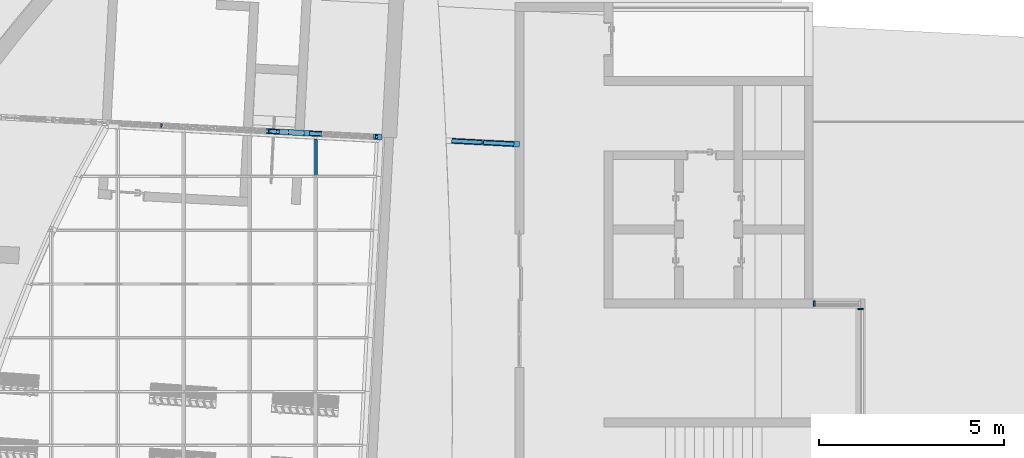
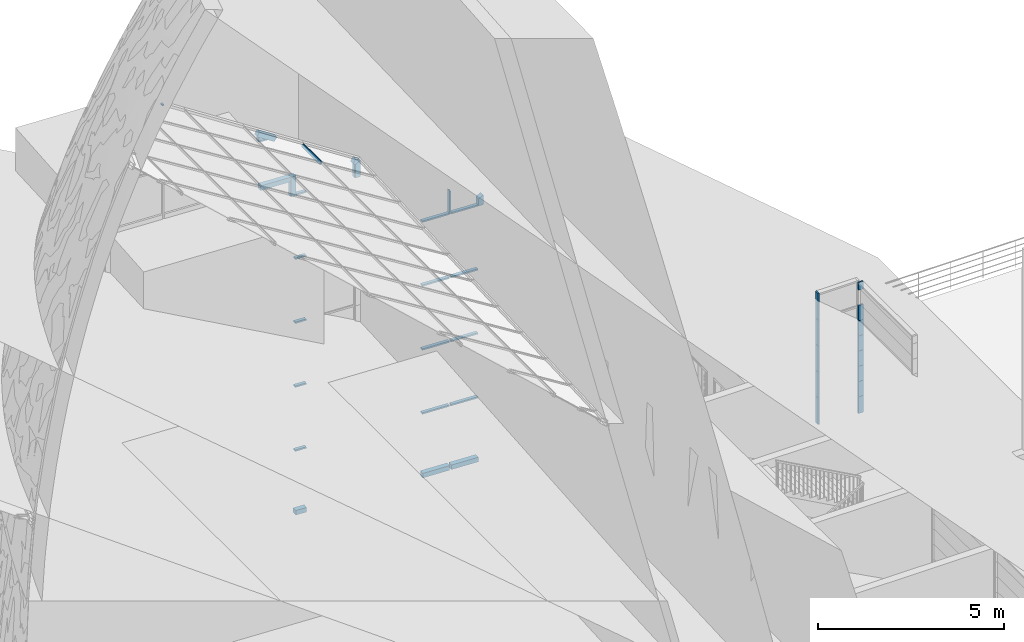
# One storey, part 32 of 82: 41 members, 4 elements without a shape of their own.
"""IFC2X3 building model written with IfcOpenShell, lengths in millimetres."""

from ifc_helpers import new_model, entity, si_unit, converted_unit, derived_unit, direction, frame, frame_2d, origin, origin_2d_with_axis, place, context, subcontext, project, spatial, polyline, rectangle, extrude, clip, halfspace, bounded_halfspace, source, transform, mapped, material, type_object, type_shapes, element, aggregate, save


model = new_model("IFC2X3")

# Units and contexts
model_context = context("Model", 3, precision=0.01, world=origin(), true_north=direction((6.12303176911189e-17, 1.0)))
body_context = subcontext(model_context, "Body", "Model", "MODEL_VIEW")
ifc_project = project(units=[si_unit("LENGTHUNIT", "METRE", prefix="MILLI"), si_unit("AREAUNIT", "SQUARE_METRE"), si_unit("VOLUMEUNIT", "CUBIC_METRE"), converted_unit("PLANEANGLEUNIT", "DEGREE", entity("IfcRatioMeasure", 0.0174532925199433), si_unit("PLANEANGLEUNIT", "RADIAN"), dimensions=[0, 0, 0, 0, 0, 0, 0]), si_unit("MASSUNIT", "GRAM", prefix="KILO"), derived_unit("MASSDENSITYUNIT", [(si_unit("MASSUNIT", "GRAM", prefix="KILO"), 1), (si_unit("LENGTHUNIT", "METRE"), -3)]), si_unit("TIMEUNIT", "SECOND"), si_unit("FREQUENCYUNIT", "HERTZ"), si_unit("THERMODYNAMICTEMPERATUREUNIT", "DEGREE_CELSIUS"), derived_unit("THERMALTRANSMITTANCEUNIT", [(si_unit("MASSUNIT", "GRAM", prefix="KILO"), 1), (si_unit("THERMODYNAMICTEMPERATUREUNIT", "KELVIN"), -1), (si_unit("TIMEUNIT", "SECOND"), -3)]), derived_unit("VOLUMETRICFLOWRATEUNIT", [(si_unit("LENGTHUNIT", "METRE"), 3), (si_unit("TIMEUNIT", "SECOND"), -1)]), si_unit("ELECTRICCURRENTUNIT", "AMPERE"), si_unit("ELECTRICVOLTAGEUNIT", "VOLT"), si_unit("POWERUNIT", "WATT"), si_unit("FORCEUNIT", "NEWTON", prefix="KILO"), si_unit("ILLUMINANCEUNIT", "LUX"), si_unit("LUMINOUSFLUXUNIT", "LUMEN"), si_unit("LUMINOUSINTENSITYUNIT", "CANDELA"), derived_unit("USERDEFINED", [(si_unit("MASSUNIT", "GRAM", prefix="KILO"), -1), (si_unit("LENGTHUNIT", "METRE"), -2), (si_unit("TIMEUNIT", "SECOND"), 3), (si_unit("LUMINOUSFLUXUNIT", "LUMEN"), 1)]), derived_unit("LINEARVELOCITYUNIT", [(si_unit("LENGTHUNIT", "METRE"), 1), (si_unit("TIMEUNIT", "SECOND"), -1)]), si_unit("PRESSUREUNIT", "PASCAL"), derived_unit("USERDEFINED", [(si_unit("LENGTHUNIT", "METRE"), -2), (si_unit("MASSUNIT", "GRAM", prefix="KILO"), 1), (si_unit("TIMEUNIT", "SECOND"), -2)])], contexts=[model_context])

# Site, building, storey
site_placement = place(None, origin())
site = spatial("IfcSite", under=ifc_project, at=site_placement, Name="表面", CompositionType="ELEMENT")
building_placement = place(site_placement, origin())
building = spatial("IfcBuilding", under=site, at=building_placement, CompositionType="ELEMENT")
storey_placement = place(building_placement, origin())
storey = spatial("IfcBuildingStorey", under=building, at=storey_placement, Name="1F", CompositionType="ELEMENT", Elevation=0.0)

# Curtain wall, members
curtain_wall_type_1 = type_object("IfcCurtainWallType", Name="幕墙系统:1450 x 2100mm", PredefinedType="NOTDEFINED")
curtain_wall_1_placement = place(storey_placement, origin())
curtain_wall_1 = element("IfcCurtainWall", 1, at=curtain_wall_1_placement, inside=storey, type_object=curtain_wall_type_1, Name="幕墙系统:1450 x 2100mm", ObjectType="幕墙系统:1450 x 2100mm")
ifc_material_1 = material(Name="木质 - 木材")
member_type_1 = type_object("IfcMemberType", Name="200 x 150mm", PredefinedType="MEMBER")
shared_shape_1 = source(origin(), body_context, "Body", "SweptSolid", [
    extrude(rectangle(XDim=150.0, YDim=150.0, at=frame_2d((7.105427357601e-15, 0.0), x_axis=(1.0, 0.0))), frame((-75.0, 0.0, -813.114110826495), z_axis=(0.0, 0.0, 1.0), x_axis=(0.0, -1.0, 0.0)), (0.0, 0.0, 1.0), 813.114110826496),
])
type_shapes(member_type_1, [shared_shape_1])
member_1_placement = place(storey_placement, frame((-14580.0443428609, 1983.52469271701, 0.0), z_axis=(0.998629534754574, -0.0523359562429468, 0.0), x_axis=(0.0, 0.0, -1.0)))
member_1 = element("IfcMember", 2, at=member_1_placement, type_object=member_type_1, material=ifc_material_1, Name="矩形竖梃:200 x 150mm", ObjectType="200 x 150mm", context=body_context, shape_type="MappedRepresentation", body=[
    mapped(shared_shape_1, transform((0.0, 0.0, 0.0), scale=1.0)),
])
member_2_placement = place(storey_placement, frame((-15441.9755857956, 2028.6965950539, 0.0), z_axis=(0.998629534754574, -0.0523359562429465, 0.0), x_axis=(0.0, 0.0, -1.0)))
member_2 = element("IfcMember", 3, at=member_2_placement, type_object=member_type_1, material=ifc_material_1, Name="矩形竖梃:200 x 150mm", ObjectType="200 x 150mm", context=body_context, shape_type="MappedRepresentation", body=[
    mapped(shared_shape_1, transform((0.0, 0.0, 0.0), scale=1.0)),
])
member_type_2 = type_object("IfcMemberType", Name="200 x 150mm", PredefinedType="MEMBER")
shared_shape_2 = source(origin(), body_context, "Body", "Clipping", [
    clip(extrude(rectangle(XDim=150.0, YDim=150.0, at=origin_2d_with_axis()), frame((-75.0, 0.0, -313.21784202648), z_axis=(0.0, 0.0, 1.0), x_axis=(0.0, -1.0, 0.0)), (0.0, 0.0, 1.0), 313.21784202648), halfspace(frame((0.0, -304.8, 0.0), z_axis=(-0.485079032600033, 0.0, 0.874470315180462), x_axis=(-0.874470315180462, 0.0, -0.485079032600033)), False)),
])
type_shapes(member_type_2, [shared_shape_2])
placement_1 = place(building_placement, frame((0.0, 0.0, 6000.0)))
member_3_placement = place(placement_1, frame((-14430.2499126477, 1975.67429928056, 2713.21784202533), z_axis=(0.0, 0.0, 1.0), x_axis=(0.998629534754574, -0.0523359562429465, 0.0)))
member_3 = element("IfcMember", 4, at=member_3_placement, type_object=member_type_2, material=ifc_material_1, Name="矩形竖梃:200 x 150mm", ObjectType="200 x 150mm", context=body_context, shape_type="MappedRepresentation", body=[
    mapped(shared_shape_2, transform((0.0, 0.0, 0.0), scale=1.0)),
])
ifc_material_2 = material(Name="金属 - 铝")
member_type_3 = type_object("IfcMemberType", Name="50 x 100mm", PredefinedType="MEMBER")
shared_shape_3 = source(origin(), body_context, "Body", "SweptSolid", [
    extrude(rectangle(XDim=100.0, YDim=50.0, at=origin_2d_with_axis()), frame((0.0, 0.0, -813.114110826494), z_axis=(0.0, 0.0, 1.0), x_axis=(0.0, -1.0, 0.0)), (0.0, 0.0, 1.0), 813.114110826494),
])
type_shapes(member_type_3, [shared_shape_3])
member_4_placement = place(storey_placement, frame((-16253.9753519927, 2071.25169957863, 2100.0), z_axis=(-0.998629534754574, 0.0523359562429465, 0.0), x_axis=(0.0, 0.0, 1.0)))
member_4 = element("IfcMember", 5, at=member_4_placement, type_object=member_type_3, material=ifc_material_2, Name="矩形竖梃:50 x 100mm", ObjectType="50 x 100mm", context=body_context, shape_type="MappedRepresentation", body=[
    mapped(shared_shape_3, transform((0.0, 0.0, 0.0), scale=1.0)),
])
member_5_placement = place(storey_placement, frame((-15392.0441090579, 2026.07979724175, 2100.0), z_axis=(-0.998629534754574, 0.0523359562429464, 0.0), x_axis=(0.0, 0.0, 1.0)))
member_5 = element("IfcMember", 6, at=member_5_placement, type_object=member_type_3, material=ifc_material_2, Name="矩形竖梃:50 x 100mm", ObjectType="50 x 100mm", context=body_context, shape_type="MappedRepresentation", body=[
    mapped(shared_shape_3, transform((0.0, 0.0, 0.0), scale=1.0)),
])
placement_2 = place(building_placement, frame((0.0, 0.0, 3000.0)))
member_6_placement = place(placement_2, frame((-16253.9753519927, 2071.25169957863, 1200.0), z_axis=(-0.998629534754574, 0.0523359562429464, 0.0), x_axis=(0.0, 0.0, 1.0)))
member_6 = element("IfcMember", 7, at=member_6_placement, type_object=member_type_3, material=ifc_material_2, Name="矩形竖梃:50 x 100mm", ObjectType="50 x 100mm", context=body_context, shape_type="MappedRepresentation", body=[
    mapped(shared_shape_3, transform((0.0, 0.0, 0.0), scale=1.0)),
])
member_7_placement = place(placement_2, frame((-15392.0441090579, 2026.07979724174, 1200.0), z_axis=(-0.998629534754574, 0.0523359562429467, 0.0), x_axis=(0.0, 0.0, 1.0)))
member_7 = element("IfcMember", 8, at=member_7_placement, type_object=member_type_3, material=ifc_material_2, Name="矩形竖梃:50 x 100mm", ObjectType="50 x 100mm", context=body_context, shape_type="MappedRepresentation", body=[
    mapped(shared_shape_3, transform((0.0, 0.0, 0.0), scale=1.0)),
])
member_8_placement = place(placement_1, frame((-16253.9753519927, 2071.25169957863, 300.0), z_axis=(-0.998629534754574, 0.0523359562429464, 0.0), x_axis=(0.0, 0.0, 1.0)))
member_8 = element("IfcMember", 9, at=member_8_placement, type_object=member_type_3, material=ifc_material_2, Name="矩形竖梃:50 x 100mm", ObjectType="50 x 100mm", context=body_context, shape_type="MappedRepresentation", body=[
    mapped(shared_shape_3, transform((0.0, 0.0, 0.0), scale=1.0)),
])
member_9_placement = place(placement_1, frame((-15392.0441090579, 2026.07979724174, 300.0), z_axis=(-0.998629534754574, 0.0523359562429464, 0.0), x_axis=(0.0, 0.0, 1.0)))
member_9 = element("IfcMember", 10, at=member_9_placement, type_object=member_type_3, material=ifc_material_2, Name="矩形竖梃:50 x 100mm", ObjectType="50 x 100mm", context=body_context, shape_type="MappedRepresentation", body=[
    mapped(shared_shape_3, transform((0.0, 0.0, 0.0), scale=1.0)),
])
member_10_placement = place(placement_1, frame((-16253.9753519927, 2071.25169957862, 2400.0), z_axis=(-0.998629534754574, 0.0523359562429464, 0.0), x_axis=(0.0, 0.0, 1.0)))
member_10 = element("IfcMember", 11, at=member_10_placement, type_object=member_type_3, material=ifc_material_2, Name="矩形竖梃:50 x 100mm", ObjectType="50 x 100mm", context=body_context, shape_type="MappedRepresentation", body=[
    mapped(shared_shape_3, transform((0.0, 0.0, 0.0), scale=1.0)),
])
member_11_placement = place(placement_1, frame((-15392.0441090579, 2026.07979724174, 2400.0), z_axis=(-0.998629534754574, 0.0523359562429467, 0.0), x_axis=(0.0, 0.0, 1.0)))
member_11 = element("IfcMember", 12, at=member_11_placement, type_object=member_type_3, material=ifc_material_2, Name="矩形竖梃:50 x 100mm", ObjectType="50 x 100mm", context=body_context, shape_type="MappedRepresentation", body=[
    mapped(shared_shape_3, transform((0.0, 0.0, 0.0), scale=1.0)),
])
member_type_4 = type_object("IfcMemberType", Name="50 x 100mm", PredefinedType="MEMBER")
shared_shape_4 = source(origin(), body_context, "Body", "Clipping", [
    clip(extrude(rectangle(XDim=100.0, YDim=50.0, at=origin_2d_with_axis()), frame((0.0, 0.0, -929.813882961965), z_axis=(0.0, 0.0, 1.0), x_axis=(0.0, -1.0, 0.0)), (0.0, 0.0, 1.0), 768.605484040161), halfspace(frame((-79.4094996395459, 75.0, -127.256164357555), z_axis=(0.529396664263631, 0.0, 0.848374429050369), x_axis=(0.848374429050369, 0.0, -0.529396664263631)), False)),
])
type_shapes(member_type_4, [shared_shape_4])
member_12_placement = place(placement_1, frame((-15417.0098474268, 2027.38819614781, 3329.81388296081), z_axis=(0.0, 0.0, 1.0), x_axis=(0.998629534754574, -0.0523359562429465, 0.0)))
member_12 = element("IfcMember", 13, at=member_12_placement, type_object=member_type_4, material=ifc_material_2, Name="矩形竖梃:50 x 100mm", ObjectType="50 x 100mm", context=body_context, shape_type="MappedRepresentation", body=[
    mapped(shared_shape_4, transform((0.0, 0.0, 0.0), scale=1.0)),
])
aggregate(curtain_wall_1, [member_1, member_3, member_2, member_4, member_5, member_6, member_7, member_8, member_9, member_10, member_11, member_12])

curtain_wall_type_2 = type_object("IfcCurtainWallType", Name="幕墙:幕墙 1", PredefinedType="NOTDEFINED")
curtain_wall_2_placement = place(storey_placement, origin())
curtain_wall_2 = element("IfcCurtainWall", 14, at=curtain_wall_2_placement, inside=storey, type_object=curtain_wall_type_2, Name="幕墙:幕墙 1", ObjectType="幕墙:幕墙 1")
member_type_5 = type_object("IfcMemberType", Name="50 x 150mm", PredefinedType="MEMBER")
shared_shape_5 = source(origin(), body_context, "Body", "SweptSolid", [
    extrude(rectangle(XDim=150.0, YDim=50.0, at=origin_2d_with_axis()), frame((-25.0, 0.0, -550.0), z_axis=(0.0, 0.0, 1.0), x_axis=(0.0, -1.0, 0.0)), (0.0, 0.0, 1.0), 550.0),
])
type_shapes(member_type_5, [shared_shape_5])
member_13_placement = place(storey_placement, frame((-5230.24991264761, -2436.868426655, 1550.0), z_axis=(0.0, 0.0, 1.0), x_axis=(0.0, 1.0, 0.0)))
member_13 = element("IfcMember", 15, at=member_13_placement, type_object=member_type_5, material=ifc_material_2, Name="矩形竖梃:50 x 150mm", ObjectType="50 x 150mm", context=body_context, shape_type="MappedRepresentation", body=[
    mapped(shared_shape_5, transform((0.0, 0.0, 0.0), scale=1.0)),
])
member_type_6 = type_object("IfcMemberType", Name="50 x 150mm", PredefinedType="MEMBER")
shared_shape_6 = source(origin(), body_context, "Body", "SweptSolid", [
    extrude(rectangle(XDim=150.0, YDim=50.0, at=origin_2d_with_axis()), frame((-25.0, 0.0, -500.0), z_axis=(0.0, 0.0, 1.0), x_axis=(0.0, -1.0, 0.0)), (0.0, 0.0, 1.0), 500.0),
])
type_shapes(member_type_6, [shared_shape_6])
member_14_placement = place(storey_placement, frame((-5230.24991264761, -2436.868426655, 2050.0), z_axis=(0.0, 0.0, 1.0), x_axis=(0.0, 1.0, 0.0)))
member_14 = element("IfcMember", 16, at=member_14_placement, type_object=member_type_6, material=ifc_material_2, Name="矩形竖梃:50 x 150mm", ObjectType="50 x 150mm", context=body_context, shape_type="MappedRepresentation", body=[
    mapped(shared_shape_6, transform((0.0, 0.0, 0.0), scale=1.0)),
])
member_15_placement = place(storey_placement, frame((-5230.24991264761, -2436.868426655, 2550.0), z_axis=(0.0, 0.0, 1.0), x_axis=(0.0, 1.0, 0.0)))
member_15 = element("IfcMember", 17, at=member_15_placement, type_object=member_type_6, material=ifc_material_2, Name="矩形竖梃:50 x 150mm", ObjectType="50 x 150mm", context=body_context, shape_type="MappedRepresentation", body=[
    mapped(shared_shape_6, transform((0.0, 0.0, 0.0), scale=1.0)),
])
member_16_placement = place(storey_placement, frame((-5230.24991264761, -2436.868426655, 3050.0), z_axis=(0.0, 0.0, 1.0), x_axis=(0.0, 1.0, 0.0)))
member_16 = element("IfcMember", 18, at=member_16_placement, type_object=member_type_6, material=ifc_material_2, Name="矩形竖梃:50 x 150mm", ObjectType="50 x 150mm", context=body_context, shape_type="MappedRepresentation", body=[
    mapped(shared_shape_6, transform((0.0, 0.0, 0.0), scale=1.0)),
])
member_17_placement = place(storey_placement, frame((-5230.24991264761, -2436.868426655, 3550.0), z_axis=(0.0, 0.0, 1.0), x_axis=(0.0, 1.0, 0.0)))
member_17 = element("IfcMember", 19, at=member_17_placement, type_object=member_type_6, material=ifc_material_2, Name="矩形竖梃:50 x 150mm", ObjectType="50 x 150mm", context=body_context, shape_type="MappedRepresentation", body=[
    mapped(shared_shape_6, transform((0.0, 0.0, 0.0), scale=1.0)),
])
member_18_placement = place(storey_placement, frame((-5230.24991264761, -2436.868426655, 4050.0), z_axis=(0.0, 0.0, 1.0), x_axis=(0.0, 1.0, 0.0)))
member_18 = element("IfcMember", 20, at=member_18_placement, type_object=member_type_6, material=ifc_material_2, Name="矩形竖梃:50 x 150mm", ObjectType="50 x 150mm", context=body_context, shape_type="MappedRepresentation", body=[
    mapped(shared_shape_6, transform((0.0, 0.0, 0.0), scale=1.0)),
])
member_19_placement = place(storey_placement, frame((-5230.24991264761, -2436.868426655, 4550.0), z_axis=(0.0, 0.0, 1.0), x_axis=(0.0, 1.0, 0.0)))
member_19 = element("IfcMember", 21, at=member_19_placement, type_object=member_type_6, material=ifc_material_2, Name="矩形竖梃:50 x 150mm", ObjectType="50 x 150mm", context=body_context, shape_type="MappedRepresentation", body=[
    mapped(shared_shape_6, transform((0.0, 0.0, 0.0), scale=1.0)),
])
member_type_7 = type_object("IfcMemberType", Name="50 x 150mm", PredefinedType="MEMBER")
shared_shape_7 = source(origin(), body_context, "Body", "SweptSolid", [
    extrude(rectangle(XDim=150.0, YDim=50.0, at=origin_2d_with_axis()), frame((-25.0, 0.0, -250.0), z_axis=(0.0, 0.0, 1.0), x_axis=(0.0, -1.0, 0.0)), (0.0, 0.0, 1.0), 250.000000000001),
])
type_shapes(member_type_7, [shared_shape_7])
member_20_placement = place(storey_placement, frame((-5230.24991264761, -2436.868426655, 5300.0), z_axis=(0.0, 0.0, 1.0), x_axis=(0.0, 1.0, 0.0)))
member_20 = element("IfcMember", 22, at=member_20_placement, type_object=member_type_7, material=ifc_material_2, Name="矩形竖梃:50 x 150mm", ObjectType="50 x 150mm", context=body_context, shape_type="MappedRepresentation", body=[
    mapped(shared_shape_7, transform((0.0, 0.0, 0.0), scale=1.0)),
])
aggregate(curtain_wall_2, [member_20, member_13, member_14, member_15, member_16, member_17, member_18, member_19])

curtain_wall_type_3 = type_object("IfcCurtainWallType", Name="幕墙:幕墙 5", PredefinedType="NOTDEFINED")
curtain_wall_3_placement = place(storey_placement, origin())
curtain_wall_3 = element("IfcCurtainWall", 23, at=curtain_wall_3_placement, inside=storey, type_object=curtain_wall_type_3, Name="幕墙:幕墙 5", ObjectType="幕墙:幕墙 5")
member_type_8 = type_object("IfcMemberType", Name="50 x 150mm", PredefinedType="MEMBER")
shared_shape_8 = source(origin(), body_context, "Body", "SweptSolid", [
    extrude(rectangle(XDim=150.0, YDim=50.0, at=origin_2d_with_axis()), frame((-25.0, 0.0, -875.0), z_axis=(0.0, 0.0, 1.0), x_axis=(0.0, -1.0, 0.0)), (0.0, 0.0, 1.0), 874.999999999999),
])
type_shapes(member_type_8, [shared_shape_8])
member_21_placement = place(storey_placement, frame((-6510.24991264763, -2316.86842665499, 5300.0), z_axis=(0.0, 0.0, 1.0), x_axis=(-1.0, 0.0, 0.0)))
member_21 = element("IfcMember", 24, at=member_21_placement, type_object=member_type_8, material=ifc_material_2, Name="矩形竖梃:50 x 150mm", ObjectType="50 x 150mm", context=body_context, shape_type="MappedRepresentation", body=[
    mapped(shared_shape_8, transform((0.0, 0.0, 0.0), scale=1.0)),
])
member_type_9 = type_object("IfcMemberType", Name="50 x 150mm", PredefinedType="MEMBER")
shared_shape_9 = source(origin(), body_context, "Body", "SweptSolid", [
    extrude(rectangle(XDim=150.0, YDim=50.0, at=origin_2d_with_axis()), frame((-25.0, 0.0, -875.0), z_axis=(0.0, 0.0, 1.0), x_axis=(0.0, -1.0, 0.0)), (0.0, 0.0, 1.0), 875.0),
])
type_shapes(member_type_9, [shared_shape_9])
member_22_placement = place(storey_placement, frame((-6510.24991264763, -2316.86842665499, 1875.0), z_axis=(0.0, 0.0, 1.0), x_axis=(-1.0, 0.0, 0.0)))
member_22 = element("IfcMember", 25, at=member_22_placement, type_object=member_type_9, material=ifc_material_2, Name="矩形竖梃:50 x 150mm", ObjectType="50 x 150mm", context=body_context, shape_type="MappedRepresentation", body=[
    mapped(shared_shape_9, transform((0.0, 0.0, 0.0), scale=1.0)),
])
member_type_10 = type_object("IfcMemberType", Name="50 x 150mm", PredefinedType="MEMBER")
shared_shape_10 = source(origin(), body_context, "Body", "SweptSolid", [
    extrude(rectangle(XDim=150.0, YDim=50.0, at=origin_2d_with_axis()), frame((-25.0, 0.0, -850.0), z_axis=(0.0, 0.0, 1.0), x_axis=(0.0, -1.0, 0.0)), (0.0, 0.0, 1.0), 850.0),
])
type_shapes(member_type_10, [shared_shape_10])
member_23_placement = place(storey_placement, frame((-6510.24991264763, -2316.86842665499, 2725.0), z_axis=(0.0, 0.0, 1.0), x_axis=(-1.0, 0.0, 0.0)))
member_23 = element("IfcMember", 26, at=member_23_placement, type_object=member_type_10, material=ifc_material_2, Name="矩形竖梃:50 x 150mm", ObjectType="50 x 150mm", context=body_context, shape_type="MappedRepresentation", body=[
    mapped(shared_shape_10, transform((0.0, 0.0, 0.0), scale=1.0)),
])
member_24_placement = place(storey_placement, frame((-6510.24991264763, -2316.86842665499, 3575.0), z_axis=(0.0, 0.0, 1.0), x_axis=(-1.0, 0.0, 0.0)))
member_24 = element("IfcMember", 27, at=member_24_placement, type_object=member_type_10, material=ifc_material_2, Name="矩形竖梃:50 x 150mm", ObjectType="50 x 150mm", context=body_context, shape_type="MappedRepresentation", body=[
    mapped(shared_shape_10, transform((0.0, 0.0, 0.0), scale=1.0)),
])
member_25_placement = place(storey_placement, frame((-6510.24991264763, -2316.86842665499, 4425.0), z_axis=(0.0, 0.0, 1.0), x_axis=(-1.0, 0.0, 0.0)))
member_25 = element("IfcMember", 28, at=member_25_placement, type_object=member_type_10, material=ifc_material_2, Name="矩形竖梃:50 x 150mm", ObjectType="50 x 150mm", context=body_context, shape_type="MappedRepresentation", body=[
    mapped(shared_shape_10, transform((0.0, 0.0, 0.0), scale=1.0)),
])
aggregate(curtain_wall_3, [member_21, member_22, member_23, member_24, member_25])

curtain_wall_4_placement = place(storey_placement, origin())
curtain_wall_4 = element("IfcCurtainWall", 29, at=curtain_wall_4_placement, inside=storey, type_object=curtain_wall_type_1, Name="幕墙系统:1450 x 2100mm", ObjectType="幕墙系统:1450 x 2100mm")
member_type_11 = type_object("IfcMemberType", Name="50 x 100mm", PredefinedType="MEMBER")
shared_shape_11 = source(origin(), body_context, "Body", "Clipping", [
    clip(clip(extrude(rectangle(XDim=100.0, YDim=50.0, at=origin_2d_with_axis()), frame((0.0, 0.0, -1127.23587640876), z_axis=(0.0, 0.0, 1.0), x_axis=(0.0, -1.0, 0.0)), (0.0, 0.0, 1.0), 978.198910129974), bounded_halfspace(frame((-2093.33992695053, 75.0, -243.185138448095), z_axis=(-0.0444004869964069, 0.0, 0.999013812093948), x_axis=(0.999013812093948, 0.0, 0.0444004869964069)), False, frame((0.0, 0.0, -1127.23587640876), z_axis=(0.0, 0.0, 1.0), x_axis=(0.0, -1.0, 0.0)), polyline([(-50.0, 6.660073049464), (-50.0, -25.0), (50.0, -25.0), (50.0, 6.6600730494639), (-50.0, 6.660073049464)]))), bounded_halfspace(frame((6.66007304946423, 75.0, -149.852071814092), z_axis=(-0.044400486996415, 0.0, 0.999013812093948), x_axis=(0.999013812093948, 0.0, 0.044400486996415)), False, frame((0.0, 0.0, -1127.23587640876), z_axis=(0.0, 0.0, 1.0), x_axis=(0.0, -1.0, 0.0)), polyline([(-50.0, 25.0), (-50.0, 6.6600730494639), (50.0, 6.66007304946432), (50.0, 25.0), (-50.0, 25.0)]))),
])
type_shapes(member_type_11, [shared_shape_11])
placement_3 = place(building_placement, frame((0.0, 0.0, 9000.0)))
member_26_placement = place(placement_3, frame((-19919.0996129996, 2263.33272289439, 3143.03179701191), z_axis=(0.0, 1.0, 0.0), x_axis=(-0.848048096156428, 0.0, 0.529919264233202)))
member_26 = element("IfcMember", 30, at=member_26_placement, type_object=member_type_11, material=ifc_material_2, Name="矩形竖梃:50 x 100mm", ObjectType="50 x 100mm", context=body_context, shape_type="MappedRepresentation", body=[
    mapped(shared_shape_11, transform((0.0, 0.0, 0.0), scale=1.0)),
])
member_type_12 = type_object("IfcMemberType", Name="200 x 150mm", PredefinedType="MEMBER")
shared_shape_12 = source(origin(), body_context, "Body", "SweptSolid", [
    extrude(rectangle(XDim=150.0, YDim=150.0, at=frame_2d((7.105427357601e-15, 0.0), x_axis=(1.0, 0.0))), frame((-75.0, 0.0, -919.196977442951), z_axis=(0.0, 0.0, 1.0), x_axis=(0.0, -1.0, 0.0)), (0.0, 0.0, 1.0), 919.196977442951),
])
type_shapes(member_type_12, [shared_shape_12])
member_27_placement = place(placement_3, frame((-20235.3206340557, 2279.90516437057, 2000.0), z_axis=(0.998629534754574, -0.0523359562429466, 0.0), x_axis=(0.0, 0.0, -1.0)))
member_27 = element("IfcMember", 31, at=member_27_placement, type_object=member_type_12, material=ifc_material_1, Name="矩形竖梃:200 x 150mm", ObjectType="200 x 150mm", context=body_context, shape_type="MappedRepresentation", body=[
    mapped(shared_shape_12, transform((0.0, 0.0, 0.0), scale=1.0)),
])
member_type_13 = type_object("IfcMemberType", Name="200 x 150mm", PredefinedType="MEMBER")
shared_shape_13 = source(origin(), body_context, "Body", "Clipping", [
    clip(extrude(rectangle(XDim=150.0, YDim=150.0, at=origin_2d_with_axis()), frame((-75.0, 0.0, -530.201342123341), z_axis=(0.0, 0.0, 1.0), x_axis=(0.0, -1.0, 0.0)), (0.0, 0.0, 1.0), 530.201342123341), halfspace(frame((0.0, -304.8, 0.0), z_axis=(-0.485079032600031, 0.0, 0.874470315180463), x_axis=(-0.874470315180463, 0.0, -0.485079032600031)), False)),
])
type_shapes(member_type_13, [shared_shape_13])
member_28_placement = place(placement_3, frame((-18138.1986110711, 2169.99965626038, 2030.20134212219), z_axis=(0.0, 0.0, 1.0), x_axis=(0.998629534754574, -0.0523359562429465, 0.0)))
member_28 = element("IfcMember", 32, at=member_28_placement, type_object=member_type_13, material=ifc_material_1, Name="矩形竖梃:200 x 150mm", ObjectType="200 x 150mm", context=body_context, shape_type="MappedRepresentation", body=[
    mapped(shared_shape_13, transform((0.0, 0.0, 0.0), scale=1.0)),
])
member_type_14 = type_object("IfcMemberType", Name="200 x 150mm", PredefinedType="MEMBER")
shared_shape_14 = source(origin(), body_context, "Body", "SweptSolid", [
    extrude(rectangle(XDim=150.0, YDim=150.0, at=origin_2d_with_axis()), frame((-75.0, 0.0, -330.80302255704), z_axis=(0.0, 0.0, 1.0), x_axis=(0.0, -1.0, 0.0)), (0.0, 0.0, 1.0), 330.80302255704),
])
type_shapes(member_type_14, [shared_shape_14])
member_29_placement = place(storey_placement, frame((-19755.1765353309, 2254.74187842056, 0.0), z_axis=(0.998629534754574, -0.0523359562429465, 0.0), x_axis=(0.0, 0.0, -1.0)))
member_29 = element("IfcMember", 33, at=member_29_placement, type_object=member_type_14, material=ifc_material_1, Name="矩形竖梃:200 x 150mm", ObjectType="200 x 150mm", context=body_context, shape_type="MappedRepresentation", body=[
    mapped(shared_shape_14, transform((0.0, 0.0, 0.0), scale=1.0)),
])
member_type_15 = type_object("IfcMemberType", Name="200 x 150mm", PredefinedType="MEMBER")
shared_shape_15 = source(origin(), body_context, "Body", "SweptSolid", [
    extrude(rectangle(XDim=150.0, YDim=150.0, at=frame_2d((0.0, -3.5527136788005e-14), x_axis=(1.0, 0.0))), frame((-75.0, 0.0, -623.010727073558), z_axis=(0.0, 0.0, 1.0), x_axis=(0.0, -1.0, 0.0)), (0.0, 0.0, 1.0), 623.01072707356),
])
type_shapes(member_type_15, [shared_shape_15])
member_30_placement = place(placement_3, frame((-21178.2236223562, 2329.32061606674, 3929.81980071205), z_axis=(-0.847211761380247, 0.0444004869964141, 0.529396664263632), x_axis=(0.528671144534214, -0.0277064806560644, 0.848374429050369)))
member_30 = element("IfcMember", 34, at=member_30_placement, type_object=member_type_15, material=ifc_material_1, Name="矩形竖梃:200 x 150mm", ObjectType="200 x 150mm", context=body_context, shape_type="MappedRepresentation", body=[
    mapped(shared_shape_15, transform((0.0, 0.0, 0.0), scale=1.0)),
])
member_type_16 = type_object("IfcMemberType", Name="200 x 150mm", PredefinedType="MEMBER")
shared_shape_16 = source(origin(), body_context, "Body", "SweptSolid", [
    extrude(rectangle(XDim=150.0, YDim=150.0, at=origin_2d_with_axis()), frame((-75.0, 0.0, -169.968556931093), z_axis=(0.0, 0.0, 1.0), x_axis=(0.0, -1.0, 0.0)), (0.0, 0.0, 1.0), 169.968556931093),
])
type_shapes(member_type_16, [shared_shape_16])
member_31_placement = place(placement_3, frame((-18282.1979715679, 2177.5463429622, 2120.18212919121), z_axis=(-0.847211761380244, 0.0444004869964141, 0.529396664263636), x_axis=(0.528671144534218, -0.0277064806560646, 0.848374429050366)))
member_31 = element("IfcMember", 35, at=member_31_placement, type_object=member_type_16, material=ifc_material_1, Name="矩形竖梃:200 x 150mm", ObjectType="200 x 150mm", context=body_context, shape_type="MappedRepresentation", body=[
    mapped(shared_shape_16, transform((0.0, 0.0, 0.0), scale=1.0)),
])
member_type_17 = type_object("IfcMemberType", Name="200 x 150mm", PredefinedType="MEMBER")
shared_shape_17 = source(origin(), body_context, "Body", "SweptSolid", [
    extrude(rectangle(XDim=150.0, YDim=150.0, at=origin_2d_with_axis()), frame((-75.0, 0.0, -650.0), z_axis=(0.0, 0.0, 1.0), x_axis=(0.0, -1.0, 0.0)), (0.0, 0.0, 1.0), 650.0),
])
type_shapes(member_type_17, [shared_shape_17])
member_32_placement = place(placement_3, frame((-20235.3206340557, 2279.90516437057, 1500.0), z_axis=(0.0, 0.0, -1.0), x_axis=(-0.998629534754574, 0.0523359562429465, 0.0)))
member_32 = element("IfcMember", 36, at=member_32_placement, type_object=member_type_17, material=ifc_material_1, Name="矩形竖梃:200 x 150mm", ObjectType="200 x 150mm", context=body_context, shape_type="MappedRepresentation", body=[
    mapped(shared_shape_17, transform((0.0, 0.0, 0.0), scale=1.0)),
])
member_type_18 = type_object("IfcMemberType", Name="50 x 100mm", PredefinedType="MEMBER")
shared_shape_18 = source(origin(), body_context, "Body", "SweptSolid", [
    extrude(rectangle(XDim=100.0, YDim=50.0, at=frame_2d((3.5527136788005e-15, 0.0), x_axis=(1.0, 0.0))), frame((0.0, 0.0, -330.803022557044), z_axis=(0.0, 0.0, 1.0), x_axis=(0.0, -1.0, 0.0)), (0.0, 0.0, 1.0), 330.803022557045),
])
type_shapes(member_type_18, [shared_shape_18])
member_33_placement = place(storey_placement, frame((-20085.5262038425, 2272.05477093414, 2100.0), z_axis=(-0.998629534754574, 0.0523359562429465, 0.0), x_axis=(0.0, 0.0, 1.0)))
member_33 = element("IfcMember", 37, at=member_33_placement, type_object=member_type_18, material=ifc_material_2, Name="矩形竖梃:50 x 100mm", ObjectType="50 x 100mm", context=body_context, shape_type="MappedRepresentation", body=[
    mapped(shared_shape_18, transform((0.0, 0.0, 0.0), scale=1.0)),
])
member_34_placement = place(placement_2, frame((-20085.5262038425, 2272.05477093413, 1200.0), z_axis=(-0.998629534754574, 0.0523359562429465, 0.0), x_axis=(0.0, 0.0, 1.0)))
member_34 = element("IfcMember", 38, at=member_34_placement, type_object=member_type_18, material=ifc_material_2, Name="矩形竖梃:50 x 100mm", ObjectType="50 x 100mm", context=body_context, shape_type="MappedRepresentation", body=[
    mapped(shared_shape_18, transform((0.0, 0.0, 0.0), scale=1.0)),
])
member_35_placement = place(placement_1, frame((-20085.5262038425, 2272.05477093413, 300.0), z_axis=(-0.998629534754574, 0.0523359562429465, 0.0), x_axis=(0.0, 0.0, 1.0)))
member_35 = element("IfcMember", 39, at=member_35_placement, type_object=member_type_18, material=ifc_material_2, Name="矩形竖梃:50 x 100mm", ObjectType="50 x 100mm", context=body_context, shape_type="MappedRepresentation", body=[
    mapped(shared_shape_18, transform((0.0, 0.0, 0.0), scale=1.0)),
])
member_36_placement = place(placement_1, frame((-20085.5262038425, 2272.05477093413, 2400.0), z_axis=(-0.998629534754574, 0.0523359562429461, 0.0), x_axis=(0.0, 0.0, 1.0)))
member_36 = element("IfcMember", 40, at=member_36_placement, type_object=member_type_18, material=ifc_material_2, Name="矩形竖梃:50 x 100mm", ObjectType="50 x 100mm", context=body_context, shape_type="MappedRepresentation", body=[
    mapped(shared_shape_18, transform((0.0, 0.0, 0.0), scale=1.0)),
])
member_37_placement = place(placement_3, frame((-20085.5262038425, 2272.05477093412, 1500.0), z_axis=(-0.998629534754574, 0.0523359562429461, 0.0), x_axis=(0.0, 0.0, 1.0)))
member_37 = element("IfcMember", 41, at=member_37_placement, type_object=member_type_18, material=ifc_material_2, Name="矩形竖梃:50 x 100mm", ObjectType="50 x 100mm", context=body_context, shape_type="MappedRepresentation", body=[
    mapped(shared_shape_18, transform((0.0, 0.0, 0.0), scale=1.0)),
])
member_type_19 = type_object("IfcMemberType", Name="50 x 100mm", PredefinedType="MEMBER")
shared_shape_19 = source(origin(), body_context, "Body", "Clipping", [
    clip(extrude(rectangle(XDim=100.0, YDim=50.0, at=frame_2d((-7.105427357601e-15, 0.0), x_axis=(1.0, 0.0))), frame((0.0, 0.0, -260.268223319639), z_axis=(0.0, 0.0, 1.0), x_axis=(0.0, -1.0, 0.0)), (0.0, 0.0, 1.0), 260.268223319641), halfspace(frame((202.56363635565, 75.0, 104.409499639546), z_axis=(0.848374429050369, 0.0, -0.529396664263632), x_axis=(-0.529396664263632, 0.0, -0.848374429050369)), False)),
])
type_shapes(member_type_19, [shared_shape_19])
member_38_placement = place(placement_3, frame((-21153.2578839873, 2328.01221716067, 3600.0), z_axis=(-0.998629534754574, 0.0523359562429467, 0.0), x_axis=(0.0, 0.0, 1.0)))
member_38 = element("IfcMember", 42, at=member_38_placement, type_object=member_type_19, material=ifc_material_2, Name="矩形竖梃:50 x 100mm", ObjectType="50 x 100mm", context=body_context, shape_type="MappedRepresentation", body=[
    mapped(shared_shape_19, transform((0.0, 0.0, 0.0), scale=1.0)),
])
member_type_20 = type_object("IfcMemberType", Name="50 x 100mm", PredefinedType="MEMBER")
shared_shape_20 = source(origin(), body_context, "Body", "SweptSolid", [
    extrude(rectangle(XDim=100.0, YDim=50.0, at=origin_2d_with_axis()), frame((0.0, 0.0, -39.4574722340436), z_axis=(0.0, 0.0, 1.0), x_axis=(0.0, -1.0, 0.0)), (0.0, 0.0, 1.0), 39.4574722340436),
])
type_shapes(member_type_20, [shared_shape_20])
member_39_placement = place(placement_3, frame((-24074.2492731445, 2481.09488917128, 5739.45747223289), z_axis=(0.0, 0.0, 1.0), x_axis=(0.998629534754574, -0.0523359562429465, 0.0)))
member_39 = element("IfcMember", 43, at=member_39_placement, type_object=member_type_20, material=ifc_material_2, Name="矩形竖梃:50 x 100mm", ObjectType="50 x 100mm", context=body_context, shape_type="MappedRepresentation", body=[
    mapped(shared_shape_20, transform((0.0, 0.0, 0.0), scale=1.0)),
])
member_type_21 = type_object("IfcMemberType", Name="50 x 100mm", PredefinedType="MEMBER")
shared_shape_21 = source(origin(), body_context, "Body", "Clipping", [
    clip(extrude(rectangle(XDim=100.0, YDim=50.0, at=origin_2d_with_axis()), frame((0.0, 0.0, -329.819800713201), z_axis=(0.0, 0.0, 1.0), x_axis=(0.0, -1.0, 0.0)), (0.0, 0.0, 1.0), 168.611401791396), halfspace(frame((-79.409499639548, 75.0, -127.256164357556), z_axis=(0.529396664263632, 0.0, 0.848374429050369), x_axis=(0.848374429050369, 0.0, -0.529396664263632)), False)),
])
type_shapes(member_type_21, [shared_shape_21])
member_40_placement = place(placement_3, frame((-21178.2236223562, 2329.32061606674, 3929.81980071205), z_axis=(0.0, 0.0, 1.0), x_axis=(0.998629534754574, -0.0523359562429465, 0.0)))
member_40 = element("IfcMember", 44, at=member_40_placement, type_object=member_type_21, material=ifc_material_2, Name="矩形竖梃:50 x 100mm", ObjectType="50 x 100mm", context=body_context, shape_type="MappedRepresentation", body=[
    mapped(shared_shape_21, transform((0.0, 0.0, 0.0), scale=1.0)),
])
member_type_22 = type_object("IfcMemberType", Name="50 x 100mm", PredefinedType="MEMBER")
shared_shape_22 = source(origin(), body_context, "Body", "Clipping", [
    clip(extrude(rectangle(XDim=100.0, YDim=50.0, at=origin_2d_with_axis()), frame((0.0, 0.0, -620.182129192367), z_axis=(0.0, 0.0, 1.0), x_axis=(0.0, -1.0, 0.0)), (0.0, 0.0, 1.0), 458.973730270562), halfspace(frame((-79.4094996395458, 75.0, -127.256164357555), z_axis=(0.529396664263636, 0.0, 0.848374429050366), x_axis=(0.848374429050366, 0.0, -0.529396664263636)), False)),
])
type_shapes(member_type_22, [shared_shape_22])
member_41_placement = place(placement_3, frame((-18282.1979715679, 2177.5463429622, 2120.18212919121), z_axis=(0.0, 0.0, 1.0), x_axis=(0.998629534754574, -0.0523359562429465, 0.0)))
member_41 = element("IfcMember", 45, at=member_41_placement, type_object=member_type_22, material=ifc_material_2, Name="矩形竖梃:50 x 100mm", ObjectType="50 x 100mm", context=body_context, shape_type="MappedRepresentation", body=[
    mapped(shared_shape_22, transform((0.0, 0.0, 0.0), scale=1.0)),
])
aggregate(curtain_wall_4, [member_26, member_27, member_28, member_29, member_30, member_31, member_32, member_33, member_34, member_35, member_36, member_37, member_38, member_39, member_40, member_41])

save(model, "model.ifc")
